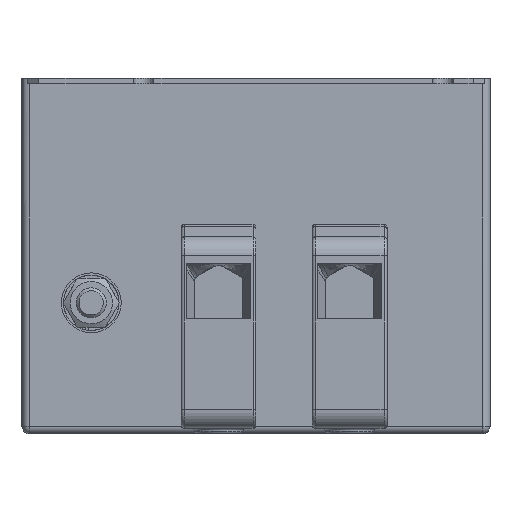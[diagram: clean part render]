
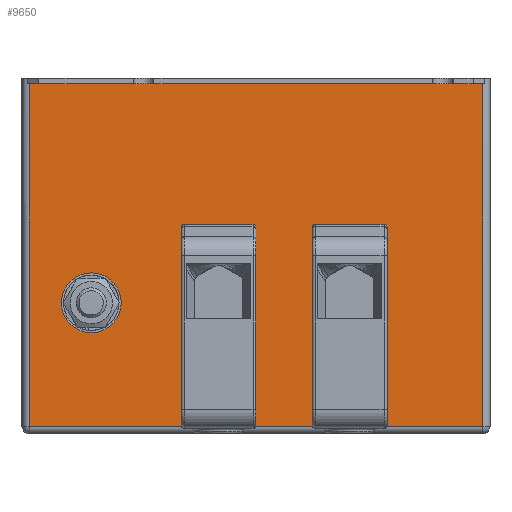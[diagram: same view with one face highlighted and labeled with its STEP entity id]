
A CAD part, left-side view. The second image highlights one B-rep face of the part: STEP entity #9650.
In plain terms, the highlighted planar face has unit normal (-1, 0, 0).
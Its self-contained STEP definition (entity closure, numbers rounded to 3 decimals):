
#4402=CARTESIAN_POINT('',(-95.0,-35.0,-38.4));
#4403=VERTEX_POINT('',#4402);
#4404=CARTESIAN_POINT('',(-95.0,-15.0,-38.4));
#4405=VERTEX_POINT('',#4404);
#4406=CARTESIAN_POINT('',(-95.0,-35.0,-38.4));
#4407=DIRECTION('',(0.0,1.0,0.0));
#4408=VECTOR('',#4407,20.0);
#4409=LINE('',#4406,#4408);
#4410=EDGE_CURVE('',#4403,#4405,#4409,.T.);
#4454=CARTESIAN_POINT('',(-95.0,-15.0,-91.2));
#4455=VERTEX_POINT('',#4454);
#4463=CARTESIAN_POINT('',(-95.0,-35.0,-91.2));
#4464=VERTEX_POINT('',#4463);
#4465=CARTESIAN_POINT('',(-95.0,-35.0,-91.2));
#4466=DIRECTION('',(0.0,1.0,0.0));
#4467=VECTOR('',#4466,20.0);
#4468=LINE('',#4465,#4467);
#4469=EDGE_CURVE('',#4464,#4455,#4468,.T.);
#5117=CARTESIAN_POINT('',(-95.0,-15.0,-91.2));
#5118=DIRECTION('',(0.0,0.0,1.0));
#5119=VECTOR('',#5118,52.8);
#5120=LINE('',#5117,#5119);
#5121=EDGE_CURVE('',#4455,#4405,#5120,.T.);
#5132=CARTESIAN_POINT('',(-95.0,-35.0,-38.4));
#5133=DIRECTION('',(0.0,0.0,-1.0));
#5134=VECTOR('',#5133,52.8);
#5135=LINE('',#5132,#5134);
#5136=EDGE_CURVE('',#4403,#4464,#5135,.T.);
#6298=CARTESIAN_POINT('',(-95.0,0.0,-38.4));
#6299=VERTEX_POINT('',#6298);
#6300=CARTESIAN_POINT('',(-95.0,20.0,-38.4));
#6301=VERTEX_POINT('',#6300);
#6302=CARTESIAN_POINT('',(-95.,0.0,-38.4));
#6303=DIRECTION('',(0.0,1.0,0.0));
#6304=VECTOR('',#6303,20.0);
#6305=LINE('',#6302,#6304);
#6306=EDGE_CURVE('',#6299,#6301,#6305,.T.);
#6350=CARTESIAN_POINT('',(-95.0,20.0,-91.2));
#6351=VERTEX_POINT('',#6350);
#6359=CARTESIAN_POINT('',(-95.0,0.0,-91.2));
#6360=VERTEX_POINT('',#6359);
#6361=CARTESIAN_POINT('',(-95.,0.0,-91.2));
#6362=DIRECTION('',(0.0,1.0,0.0));
#6363=VECTOR('',#6362,20.0);
#6364=LINE('',#6361,#6363);
#6365=EDGE_CURVE('',#6360,#6351,#6364,.T.);
#7013=CARTESIAN_POINT('',(-95.,20.,-91.2));
#7014=DIRECTION('',(0.0,0.0,1.0));
#7015=VECTOR('',#7014,52.8);
#7016=LINE('',#7013,#7015);
#7017=EDGE_CURVE('',#6351,#6301,#7016,.T.);
#7028=CARTESIAN_POINT('',(-95.0,0.,-38.4));
#7029=DIRECTION('',(0.0,0.0,-1.0));
#7030=VECTOR('',#7029,52.8);
#7031=LINE('',#7028,#7030);
#7032=EDGE_CURVE('',#6299,#6360,#7031,.T.);
#7773=CARTESIAN_POINT('',(-95.,44.,-64.825));
#7774=VERTEX_POINT('',#7773);
#7775=CARTESIAN_POINT('',(-95.,44.,-58.5));
#7776=DIRECTION('',(1.0,0.0,0.0));
#7777=DIRECTION('',(0.0,0.0,-1.0));
#7778=AXIS2_PLACEMENT_3D('',#7775,#7776,#7777);
#7779=CIRCLE('',#7778,6.325);
#7780=EDGE_CURVE('',#7774,#7774,#7779,.T.);
#9351=CARTESIAN_POINT('',(-95.,60.5,-91.5));
#9352=VERTEX_POINT('',#9351);
#9404=CARTESIAN_POINT('',(-95.,60.5,0.0));
#9405=VERTEX_POINT('',#9404);
#9406=CARTESIAN_POINT('',(-95.,60.5,-91.5));
#9407=DIRECTION('',(0.0,0.0,1.0));
#9408=VECTOR('',#9407,91.5);
#9409=LINE('',#9406,#9408);
#9410=EDGE_CURVE('',#9352,#9405,#9409,.T.);
#9468=CARTESIAN_POINT('',(-95.0,-60.5,-91.5));
#9469=VERTEX_POINT('',#9468);
#9494=CARTESIAN_POINT('',(-95.0,-60.5,0.0));
#9495=VERTEX_POINT('',#9494);
#9503=CARTESIAN_POINT('',(-95.0,-60.5,0.0));
#9504=DIRECTION('',(0.0,0.0,-1.0));
#9505=VECTOR('',#9504,91.5);
#9506=LINE('',#9503,#9505);
#9507=EDGE_CURVE('',#9495,#9469,#9506,.T.);
#9549=CARTESIAN_POINT('',(-95.0,-60.5,-91.5));
#9550=DIRECTION('',(0.0,1.0,0.0));
#9551=VECTOR('',#9550,121.0);
#9552=LINE('',#9549,#9551);
#9553=EDGE_CURVE('',#9469,#9352,#9552,.T.);
#9619=CARTESIAN_POINT('',(-95.0,-62.5,0.0));
#9620=DIRECTION('',(-1.0,0.0,0.0));
#9621=DIRECTION('',(0.0,1.0,0.0));
#9622=AXIS2_PLACEMENT_3D('',#9619,#9620,#9621);
#9623=PLANE('',#9622);
#9624=ORIENTED_EDGE('',*,*,#9410,.F.);
#9625=ORIENTED_EDGE('',*,*,#9553,.F.);
#9626=ORIENTED_EDGE('',*,*,#9507,.F.);
#9627=CARTESIAN_POINT('',(-95.0,-60.5,0.0));
#9628=DIRECTION('',(0.0,1.0,0.0));
#9629=VECTOR('',#9628,121.0);
#9630=LINE('',#9627,#9629);
#9631=EDGE_CURVE('',#9495,#9405,#9630,.T.);
#9632=ORIENTED_EDGE('',*,*,#9631,.T.);
#9633=EDGE_LOOP('',(#9624,#9625,#9626,#9632));
#9634=FACE_OUTER_BOUND('',#9633,.T.);
#9635=ORIENTED_EDGE('',*,*,#4469,.T.);
#9636=ORIENTED_EDGE('',*,*,#5121,.T.);
#9637=ORIENTED_EDGE('',*,*,#4410,.F.);
#9638=ORIENTED_EDGE('',*,*,#5136,.T.);
#9639=EDGE_LOOP('',(#9635,#9636,#9637,#9638));
#9640=FACE_BOUND('',#9639,.T.);
#9641=ORIENTED_EDGE('',*,*,#6365,.T.);
#9642=ORIENTED_EDGE('',*,*,#7017,.T.);
#9643=ORIENTED_EDGE('',*,*,#6306,.F.);
#9644=ORIENTED_EDGE('',*,*,#7032,.T.);
#9645=EDGE_LOOP('',(#9641,#9642,#9643,#9644));
#9646=FACE_BOUND('',#9645,.T.);
#9647=ORIENTED_EDGE('',*,*,#7780,.T.);
#9648=EDGE_LOOP('',(#9647));
#9649=FACE_BOUND('',#9648,.T.);
#9650=ADVANCED_FACE('',(#9634,#9640,#9646,#9649),#9623,.T.);
